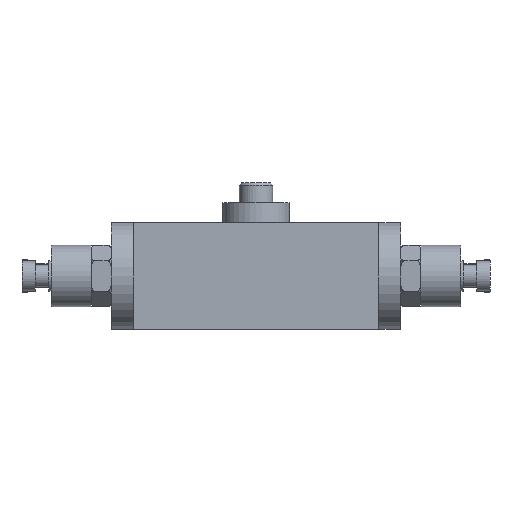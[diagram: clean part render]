
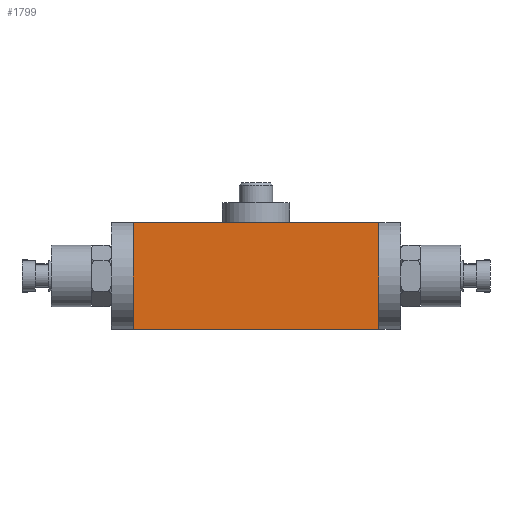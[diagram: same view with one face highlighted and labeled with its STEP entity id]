
A CAD part, front view. The second image highlights one B-rep face of the part: STEP entity #1799.
In plain terms, the highlighted planar face has unit normal (0, -1, 0).
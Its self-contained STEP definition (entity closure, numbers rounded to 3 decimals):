
#1799=ADVANCED_FACE('',(#3059),#2571,.F.);
#2571=PLANE('',#13196);
#3059=FACE_OUTER_BOUND('',#3706,.T.);
#3706=EDGE_LOOP('',(#6996,#6997,#6998,#6999));
#4723=LINE('',#17937,#5618);
#4822=LINE('',#18391,#5717);
#4834=LINE('',#19082,#5729);
#4853=LINE('',#19180,#5748);
#5618=VECTOR('',#14323,1.);
#5717=VECTOR('',#14818,1.);
#5729=VECTOR('',#14840,1.);
#5748=VECTOR('',#14923,1.);
#6996=ORIENTED_EDGE('',*,*,#11108,.T.);
#6997=ORIENTED_EDGE('',*,*,#10843,.F.);
#6998=ORIENTED_EDGE('',*,*,#11059,.F.);
#6999=ORIENTED_EDGE('',*,*,#11041,.T.);
#9655=VERTEX_POINT('',#17936);
#9656=VERTEX_POINT('',#17938);
#9812=VERTEX_POINT('',#18390);
#9813=VERTEX_POINT('',#18392);
#10843=EDGE_CURVE('',#9655,#9656,#4723,.T.);
#11041=EDGE_CURVE('',#9813,#9812,#4822,.T.);
#11059=EDGE_CURVE('',#9813,#9655,#4834,.T.);
#11108=EDGE_CURVE('',#9812,#9656,#4853,.T.);
#13196=AXIS2_PLACEMENT_3D('',#19203,#14941,#14942);
#14323=DIRECTION('',(0.,0.,-1.));
#14818=DIRECTION('',(0.,0.,-1.));
#14840=DIRECTION('',(1.,0.,0.));
#14923=DIRECTION('',(1.,0.,0.));
#14941=DIRECTION('',(0.,1.,0.));
#14942=DIRECTION('',(-1.,0.,0.));
#17936=CARTESIAN_POINT('',(92.029,-50.705,80.));
#17937=CARTESIAN_POINT('',(92.029,-50.705,80.));
#17938=CARTESIAN_POINT('',(92.029,-50.705,0.));
#18390=CARTESIAN_POINT('',(-91.971,-50.705,0.));
#18391=CARTESIAN_POINT('',(-91.971,-50.705,80.));
#18392=CARTESIAN_POINT('',(-91.971,-50.705,80.));
#19082=CARTESIAN_POINT('',(-86.471,-50.705,80.));
#19180=CARTESIAN_POINT('',(-86.471,-50.705,0.));
#19203=CARTESIAN_POINT('',(-86.471,-50.705,80.));
